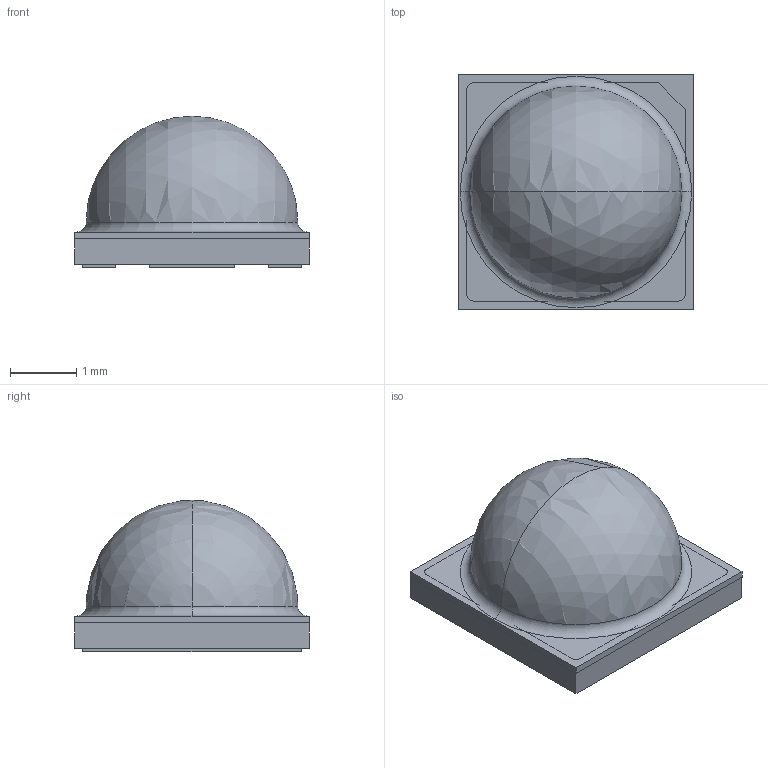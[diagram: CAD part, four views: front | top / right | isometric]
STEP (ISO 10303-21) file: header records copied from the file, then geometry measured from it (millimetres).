
FILE_DESCRIPTION(('STEP AP203'),'1');
FILE_NAME('SST-20F-WSx-AH_OA.stp','2024-11-27T07:44:04',(' '),(' '),'Spatial InterOp 3D',' ',' ');
FILE_SCHEMA(('CONFIG_CONTROL_DESIGN'));
Length unit declared in the file: millimetre
Products named in the file (1): 1
Bounding box: 3.55 x 3.55 x 2.29 mm (x, y, z)
Volume: 17.8 mm3; surface area: 130.1 mm2
Topology: 10 solids, 129 shells, 259 faces, 910 edges, 787 vertices
Faces by surface type: plane 168, cylinder 83, bspline 4, sphere 2, torus 2
Entity records: 10948 total; most frequent: CARTESIAN_POINT 2149, DIRECTION 1982, ORIENTED_EDGE 1262, EDGE_CURVE 906, VERTEX_POINT 787, AXIS2_PLACEMENT_3D 692, LINE 598, VECTOR 598
